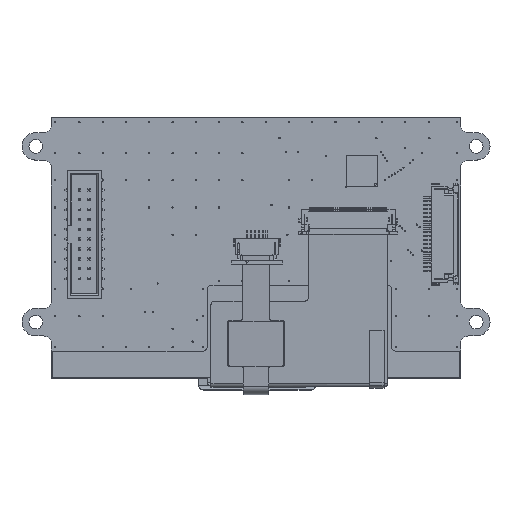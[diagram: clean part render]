
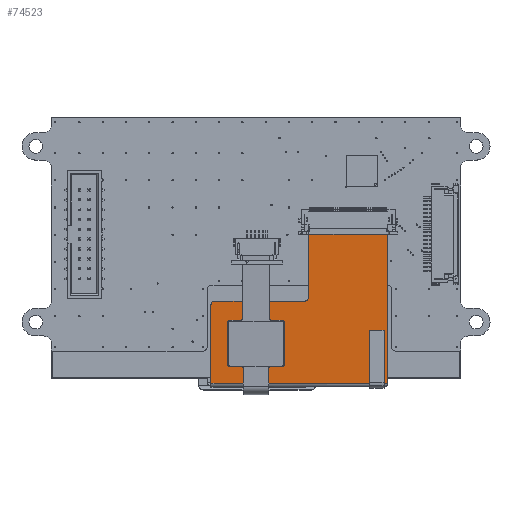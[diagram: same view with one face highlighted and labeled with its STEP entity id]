
A CAD part, top view. The second image highlights one B-rep face of the part: STEP entity #74523.
In plain terms, the highlighted planar face has unit normal (0, -0.052, 0.999).
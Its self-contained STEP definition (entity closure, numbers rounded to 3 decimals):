
#593 = EDGE_CURVE ( 'NONE', #21629, #151172, #165758, .T. ) ;
#1892 = AXIS2_PLACEMENT_3D ( 'NONE', #127986, #12555, #102706 ) ;
#5020 = CARTESIAN_POINT ( 'NONE',  ( 59.273, 54.229, 87.702 ) ) ;
#6837 = CARTESIAN_POINT ( 'NONE',  ( 79.573, 66.979, 88.37 ) ) ;
#8710 = CARTESIAN_POINT ( 'NONE',  ( 59.273, 47.855, 87.368 ) ) ;
#9861 = CARTESIAN_POINT ( 'NONE',  ( 35.173, 46.856, 87.316 ) ) ;
#9967 = ORIENTED_EDGE ( 'NONE', *, *, #13333, .F. ) ;
#12384 = B_SPLINE_CURVE_WITH_KNOTS ( 'NONE', 3,
 ( #100122, #21791, #85843, #113600 ),
 .UNSPECIFIED., .F., .F.,
 ( 4, 4 ),
 ( 0., 1. ),
 .UNSPECIFIED. ) ;
#12555 = DIRECTION ( 'NONE',  ( 0., 0.052, -0.999 ) ) ;
#13333 = EDGE_CURVE ( 'NONE', #118631, #54252, #17775, .T. ) ;
#15676 = EDGE_CURVE ( 'NONE', #54252, #95574, #76888, .T. ) ;
#17320 = CARTESIAN_POINT ( 'NONE',  ( 79.773, 39.523, 86.931 ) ) ;
#17502 = ORIENTED_EDGE ( 'NONE', *, *, #88925, .F. ) ;
#17775 = B_SPLINE_CURVE_WITH_KNOTS ( 'NONE', 3,
 ( #52778, #151356, #17320, #156378 ),
 .UNSPECIFIED., .F., .F.,
 ( 4, 4 ),
 ( 0., 1. ),
 .UNSPECIFIED. ) ;
#21629 = VERTEX_POINT ( 'NONE', #154997 ) ;
#21791 = CARTESIAN_POINT ( 'NONE',  ( 42.873, 46.856, 87.316 ) ) ;
#23824 = AXIS2_PLACEMENT_3D ( 'NONE', #107981, #109640, #32125 ) ;
#26916 = ORIENTED_EDGE ( 'NONE', *, *, #124723, .F. ) ;
#29568 = EDGE_CURVE ( 'NONE', #97083, #102627, #90632, .T. ) ;
#31962 = CARTESIAN_POINT ( 'NONE',  ( 59.273, 60.604, 88.036 ) ) ;
#32125 = DIRECTION ( 'NONE',  ( 0., 0.999, 0.052 ) ) ;
#32975 = VERTEX_POINT ( 'NONE', #153035 ) ;
#34132 = CARTESIAN_POINT ( 'NONE',  ( 59.473, 67.178, 88.381 ) ) ;
#36749 = VECTOR ( 'NONE', #59365, 1000. ) ;
#42376 = ORIENTED_EDGE ( 'NONE', *, *, #29568, .F. ) ;
#45439 = CARTESIAN_POINT ( 'NONE',  ( 59.273, 66.979, 88.37 ) ) ;
#48485 = FACE_OUTER_BOUND ( 'NONE', #127146, .T. ) ;
#48500 = EDGE_CURVE ( 'NONE', #151172, #118631, #136798, .T. ) ;
#48525 = EDGE_CURVE ( 'NONE', #134694, #32975, #134179, .T. ) ;
#49314 = DIRECTION ( 'NONE',  ( 1., 0., 0. ) ) ;
#51161 = CARTESIAN_POINT ( 'NONE',  ( 34.173, 39.15, 86.912 ) ) ;
#52778 = CARTESIAN_POINT ( 'NONE',  ( 79.773, 66.979, 88.37 ) ) ;
#54252 = VERTEX_POINT ( 'NONE', #73879 ) ;
#59365 = DIRECTION ( 'NONE',  ( -1., 0., 0. ) ) ;
#59705 = EDGE_CURVE ( 'NONE', #102627, #32975, #12384, .T. ) ;
#64108 = AXIS2_PLACEMENT_3D ( 'NONE', #6837, #81858, #161024 ) ;
#64948 = VERTEX_POINT ( 'NONE', #116940 ) ;
#65753 = VERTEX_POINT ( 'NONE', #92723 ) ;
#68913 = AXIS2_PLACEMENT_3D ( 'NONE', #137145, #114325, #74769 ) ;
#69125 = EDGE_CURVE ( 'NONE', #65753, #21629, #114595, .T. ) ;
#73879 = CARTESIAN_POINT ( 'NONE',  ( 79.773, 25.795, 86.212 ) ) ;
#74523 = ADVANCED_FACE ( 'NONE', ( #48485 ), #126811, .T. ) ;
#74769 = DIRECTION ( 'NONE',  ( 0., 0.999, 0.052 ) ) ;
#76246 = DIRECTION ( 'NONE',  ( 0., -0.052, 0.999 ) ) ;
#76441 = CARTESIAN_POINT ( 'NONE',  ( 34.173, 32.443, 86.56 ) ) ;
#76888 = CIRCLE ( 'NONE', #106116, 1. ) ;
#77114 = CARTESIAN_POINT ( 'NONE',  ( 78.773, 25.845, 86.214 ) ) ;
#81233 = ORIENTED_EDGE ( 'NONE', *, *, #69125, .F. ) ;
#81858 = DIRECTION ( 'NONE',  ( 0., 0.052, -0.999 ) ) ;
#85303 = AXIS2_PLACEMENT_3D ( 'NONE', #77114, #76246, #49314 ) ;
#85843 = CARTESIAN_POINT ( 'NONE',  ( 50.573, 46.856, 87.316 ) ) ;
#87119 = LINE ( 'NONE', #162151, #36749 ) ;
#87908 = ORIENTED_EDGE ( 'NONE', *, *, #162062, .F. ) ;
#87978 = CARTESIAN_POINT ( 'NONE',  ( 66.173, 67.178, 88.381 ) ) ;
#88776 = CARTESIAN_POINT ( 'NONE',  ( 72.873, 67.178, 88.381 ) ) ;
#88925 = EDGE_CURVE ( 'NONE', #134694, #65753, #126398, .T. ) ;
#90632 = CIRCLE ( 'NONE', #1892, 1. ) ;
#92723 = CARTESIAN_POINT ( 'NONE',  ( 59.273, 66.979, 88.37 ) ) ;
#93085 = CARTESIAN_POINT ( 'NONE',  ( 78.773, 25.795, 86.212 ) ) ;
#94734 = DIRECTION ( 'NONE',  ( 0., 0.052, -0.999 ) ) ;
#95574 = VERTEX_POINT ( 'NONE', #126037 ) ;
#97083 = VERTEX_POINT ( 'NONE', #129600 ) ;
#100122 = CARTESIAN_POINT ( 'NONE',  ( 35.173, 46.856, 87.316 ) ) ;
#101342 = ORIENTED_EDGE ( 'NONE', *, *, #15676, .F. ) ;
#102627 = VERTEX_POINT ( 'NONE', #9861 ) ;
#102706 = DIRECTION ( 'NONE',  ( 0., 0.999, 0.052 ) ) ;
#106116 = AXIS2_PLACEMENT_3D ( 'NONE', #93085, #94734, #144486 ) ;
#107981 = CARTESIAN_POINT ( 'NONE',  ( 58.273, 47.855, 87.368 ) ) ;
#109640 = DIRECTION ( 'NONE',  ( 0., 0.052, -0.999 ) ) ;
#113600 = CARTESIAN_POINT ( 'NONE',  ( 58.273, 46.856, 87.316 ) ) ;
#114325 = DIRECTION ( 'NONE',  ( 0., 0.052, -0.999 ) ) ;
#114542 = ORIENTED_EDGE ( 'NONE', *, *, #59705, .F. ) ;
#114595 = CIRCLE ( 'NONE', #68913, 0.2 ) ;
#115029 = CARTESIAN_POINT ( 'NONE',  ( 79.773, 66.979, 88.37 ) ) ;
#116940 = CARTESIAN_POINT ( 'NONE',  ( 34.173, 25.735, 86.209 ) ) ;
#118631 = VERTEX_POINT ( 'NONE', #115029 ) ;
#124723 = EDGE_CURVE ( 'NONE', #64948, #97083, #165668, .T. ) ;
#126037 = CARTESIAN_POINT ( 'NONE',  ( 79.771, 25.735, 86.209 ) ) ;
#126398 = B_SPLINE_CURVE_WITH_KNOTS ( 'NONE', 3,
 ( #147389, #5020, #31962, #45439 ),
 .UNSPECIFIED., .F., .F.,
 ( 4, 4 ),
 ( 0., 1. ),
 .UNSPECIFIED. ) ;
#126811 = PLANE ( 'NONE',  #85303 ) ;
#127146 = EDGE_LOOP ( 'NONE', ( #144935, #128515, #81233, #17502, #141425, #114542, #42376, #26916, #87908, #101342, #9967 ) ) ;
#127986 = CARTESIAN_POINT ( 'NONE',  ( 35.173, 45.858, 87.263 ) ) ;
#128515 = ORIENTED_EDGE ( 'NONE', *, *, #593, .F. ) ;
#129518 = CARTESIAN_POINT ( 'NONE',  ( 34.173, 45.858, 87.263 ) ) ;
#129600 = CARTESIAN_POINT ( 'NONE',  ( 34.173, 45.858, 87.263 ) ) ;
#132245 = CARTESIAN_POINT ( 'NONE',  ( 79.573, 67.178, 88.381 ) ) ;
#134179 = CIRCLE ( 'NONE', #23824, 1. ) ;
#134694 = VERTEX_POINT ( 'NONE', #8710 ) ;
#136798 = CIRCLE ( 'NONE', #64108, 0.2 ) ;
#137145 = CARTESIAN_POINT ( 'NONE',  ( 59.473, 66.979, 88.37 ) ) ;
#140487 = CARTESIAN_POINT ( 'NONE',  ( 34.173, 25.735, 86.209 ) ) ;
#141425 = ORIENTED_EDGE ( 'NONE', *, *, #48525, .T. ) ;
#144486 = DIRECTION ( 'NONE',  ( 0., 0.999, 0.052 ) ) ;
#144935 = ORIENTED_EDGE ( 'NONE', *, *, #48500, .F. ) ;
#147389 = CARTESIAN_POINT ( 'NONE',  ( 59.273, 47.855, 87.368 ) ) ;
#151172 = VERTEX_POINT ( 'NONE', #132245 ) ;
#151356 = CARTESIAN_POINT ( 'NONE',  ( 79.773, 53.251, 87.651 ) ) ;
#152843 = CARTESIAN_POINT ( 'NONE',  ( 79.573, 67.178, 88.381 ) ) ;
#153035 = CARTESIAN_POINT ( 'NONE',  ( 58.273, 46.856, 87.316 ) ) ;
#154997 = CARTESIAN_POINT ( 'NONE',  ( 59.473, 67.178, 88.381 ) ) ;
#156378 = CARTESIAN_POINT ( 'NONE',  ( 79.773, 25.795, 86.212 ) ) ;
#161024 = DIRECTION ( 'NONE',  ( 0., 0.999, 0.052 ) ) ;
#162062 = EDGE_CURVE ( 'NONE', #95574, #64948, #87119, .T. ) ;
#162151 = CARTESIAN_POINT ( 'NONE',  ( 79.771, 25.735, 86.209 ) ) ;
#165668 = B_SPLINE_CURVE_WITH_KNOTS ( 'NONE', 3,
 ( #140487, #76441, #51161, #129518 ),
 .UNSPECIFIED., .F., .F.,
 ( 4, 4 ),
 ( 0., 1. ),
 .UNSPECIFIED. ) ;
#165758 = B_SPLINE_CURVE_WITH_KNOTS ( 'NONE', 3,
 ( #34132, #87978, #88776, #152843 ),
 .UNSPECIFIED., .F., .F.,
 ( 4, 4 ),
 ( 0., 1. ),
 .UNSPECIFIED. ) ;
